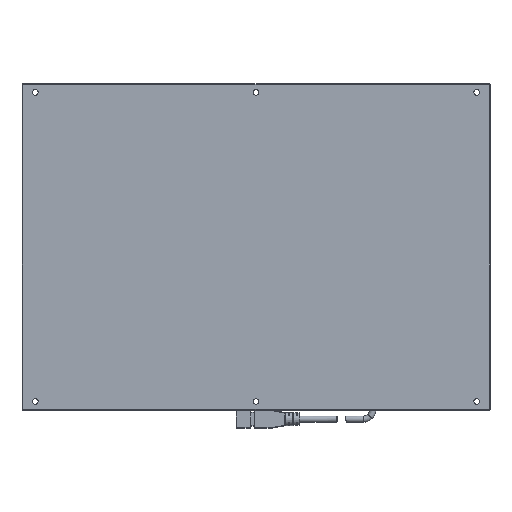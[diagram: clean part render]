
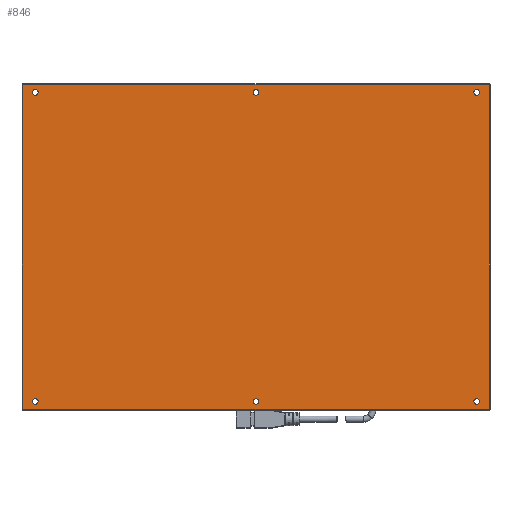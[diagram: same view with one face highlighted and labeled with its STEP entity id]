
A CAD part, front view. The second image highlights one B-rep face of the part: STEP entity #846.
In plain terms, the highlighted planar face has unit normal (0, -1, 0).
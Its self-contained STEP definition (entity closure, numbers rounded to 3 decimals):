
#1=DIRECTION('',(1.,0.,0.));
#2=VECTOR('',#1,264.);
#3=CARTESIAN_POINT('',(-132.,0.,92.));
#4=LINE('',#3,#2);
#5=DIRECTION('',(0.,0.,-1.));
#6=VECTOR('',#5,184.);
#7=CARTESIAN_POINT('',(132.,0.,92.));
#8=LINE('',#7,#6);
#9=DIRECTION('',(-1.,0.,0.));
#10=VECTOR('',#9,264.);
#11=CARTESIAN_POINT('',(132.,0.,-92.));
#12=LINE('',#11,#10);
#13=DIRECTION('',(0.,0.,1.));
#14=VECTOR('',#13,184.);
#15=CARTESIAN_POINT('',(-132.,0.,-92.));
#16=LINE('',#15,#14);
#17=CARTESIAN_POINT('',(-125.,0.,-87.5));
#18=DIRECTION('',(0.,-1.,0.));
#19=DIRECTION('',(1.,0.,0.));
#20=AXIS2_PLACEMENT_3D('',#17,#18,#19);
#22=CARTESIAN_POINT('',(-125.,0.,-87.5));
#23=DIRECTION('',(0.,-1.,0.));
#24=DIRECTION('',(-1.,0.,0.));
#25=AXIS2_PLACEMENT_3D('',#22,#23,#24);
#27=CARTESIAN_POINT('',(0.,0.,-87.5));
#28=DIRECTION('',(0.,-1.,0.));
#29=DIRECTION('',(1.,0.,0.));
#30=AXIS2_PLACEMENT_3D('',#27,#28,#29);
#32=CARTESIAN_POINT('',(0.,0.,-87.5));
#33=DIRECTION('',(0.,-1.,0.));
#34=DIRECTION('',(-1.,0.,0.));
#35=AXIS2_PLACEMENT_3D('',#32,#33,#34);
#37=CARTESIAN_POINT('',(125.,0.,-87.5));
#38=DIRECTION('',(0.,-1.,0.));
#39=DIRECTION('',(1.,0.,0.));
#40=AXIS2_PLACEMENT_3D('',#37,#38,#39);
#42=CARTESIAN_POINT('',(125.,0.,-87.5));
#43=DIRECTION('',(0.,-1.,0.));
#44=DIRECTION('',(-1.,0.,0.));
#45=AXIS2_PLACEMENT_3D('',#42,#43,#44);
#47=CARTESIAN_POINT('',(-125.,0.,87.5));
#48=DIRECTION('',(0.,-1.,0.));
#49=DIRECTION('',(1.,0.,0.));
#50=AXIS2_PLACEMENT_3D('',#47,#48,#49);
#52=CARTESIAN_POINT('',(-125.,0.,87.5));
#53=DIRECTION('',(0.,-1.,0.));
#54=DIRECTION('',(-1.,0.,0.));
#55=AXIS2_PLACEMENT_3D('',#52,#53,#54);
#57=CARTESIAN_POINT('',(0.,0.,87.5));
#58=DIRECTION('',(0.,-1.,0.));
#59=DIRECTION('',(1.,0.,0.));
#60=AXIS2_PLACEMENT_3D('',#57,#58,#59);
#62=CARTESIAN_POINT('',(0.,0.,87.5));
#63=DIRECTION('',(0.,-1.,0.));
#64=DIRECTION('',(-1.,0.,0.));
#65=AXIS2_PLACEMENT_3D('',#62,#63,#64);
#67=CARTESIAN_POINT('',(125.,0.,87.5));
#68=DIRECTION('',(0.,-1.,0.));
#69=DIRECTION('',(1.,0.,0.));
#70=AXIS2_PLACEMENT_3D('',#67,#68,#69);
#72=CARTESIAN_POINT('',(125.,0.,87.5));
#73=DIRECTION('',(0.,-1.,0.));
#74=DIRECTION('',(-1.,0.,0.));
#75=AXIS2_PLACEMENT_3D('',#72,#73,#74);
#607=CARTESIAN_POINT('',(-132.,0.,92.));
#608=CARTESIAN_POINT('',(132.,0.,92.));
#609=VERTEX_POINT('',#607);
#610=VERTEX_POINT('',#608);
#611=CARTESIAN_POINT('',(132.,0.,-92.));
#612=VERTEX_POINT('',#611);
#613=CARTESIAN_POINT('',(-132.,0.,-92.));
#614=VERTEX_POINT('',#613);
#615=CARTESIAN_POINT('',(-123.4,0.,-87.5));
#616=CARTESIAN_POINT('',(-126.6,0.,-87.5));
#617=VERTEX_POINT('',#615);
#618=VERTEX_POINT('',#616);
#619=CARTESIAN_POINT('',(1.6,0.,-87.5));
#620=CARTESIAN_POINT('',(-1.6,0.,-87.5));
#621=VERTEX_POINT('',#619);
#622=VERTEX_POINT('',#620);
#623=CARTESIAN_POINT('',(126.6,0.,-87.5));
#624=CARTESIAN_POINT('',(123.4,0.,-87.5));
#625=VERTEX_POINT('',#623);
#626=VERTEX_POINT('',#624);
#627=CARTESIAN_POINT('',(-123.4,0.,87.5));
#628=CARTESIAN_POINT('',(-126.6,0.,87.5));
#629=VERTEX_POINT('',#627);
#630=VERTEX_POINT('',#628);
#631=CARTESIAN_POINT('',(1.6,0.,87.5));
#632=CARTESIAN_POINT('',(-1.6,0.,87.5));
#633=VERTEX_POINT('',#631);
#634=VERTEX_POINT('',#632);
#635=CARTESIAN_POINT('',(126.6,0.,87.5));
#636=CARTESIAN_POINT('',(123.4,0.,87.5));
#637=VERTEX_POINT('',#635);
#638=VERTEX_POINT('',#636);
#795=CARTESIAN_POINT('',(0.,0.,0.));
#796=DIRECTION('',(0.,-1.,0.));
#797=DIRECTION('',(-1.,0.,0.));
#798=AXIS2_PLACEMENT_3D('',#795,#796,#797);
#799=PLANE('',#798);
#801=ORIENTED_EDGE('',*,*,#800,.T.);
#803=ORIENTED_EDGE('',*,*,#802,.T.);
#805=ORIENTED_EDGE('',*,*,#804,.T.);
#807=ORIENTED_EDGE('',*,*,#806,.T.);
#808=EDGE_LOOP('',(#801,#803,#805,#807));
#809=FACE_OUTER_BOUND('',#808,.F.);
#811=ORIENTED_EDGE('',*,*,#810,.T.);
#813=ORIENTED_EDGE('',*,*,#812,.T.);
#814=EDGE_LOOP('',(#811,#813));
#815=FACE_BOUND('',#814,.F.);
#817=ORIENTED_EDGE('',*,*,#816,.T.);
#819=ORIENTED_EDGE('',*,*,#818,.T.);
#820=EDGE_LOOP('',(#817,#819));
#821=FACE_BOUND('',#820,.F.);
#823=ORIENTED_EDGE('',*,*,#822,.T.);
#825=ORIENTED_EDGE('',*,*,#824,.T.);
#826=EDGE_LOOP('',(#823,#825));
#827=FACE_BOUND('',#826,.F.);
#829=ORIENTED_EDGE('',*,*,#828,.T.);
#831=ORIENTED_EDGE('',*,*,#830,.T.);
#832=EDGE_LOOP('',(#829,#831));
#833=FACE_BOUND('',#832,.F.);
#835=ORIENTED_EDGE('',*,*,#834,.T.);
#837=ORIENTED_EDGE('',*,*,#836,.T.);
#838=EDGE_LOOP('',(#835,#837));
#839=FACE_BOUND('',#838,.F.);
#841=ORIENTED_EDGE('',*,*,#840,.T.);
#843=ORIENTED_EDGE('',*,*,#842,.T.);
#844=EDGE_LOOP('',(#841,#843));
#845=FACE_BOUND('',#844,.F.);
#21=CIRCLE('',#20,1.6);
#26=CIRCLE('',#25,1.6);
#31=CIRCLE('',#30,1.6);
#36=CIRCLE('',#35,1.6);
#41=CIRCLE('',#40,1.6);
#46=CIRCLE('',#45,1.6);
#51=CIRCLE('',#50,1.6);
#56=CIRCLE('',#55,1.6);
#61=CIRCLE('',#60,1.6);
#66=CIRCLE('',#65,1.6);
#71=CIRCLE('',#70,1.6);
#76=CIRCLE('',#75,1.6);
#800=EDGE_CURVE('',#609,#610,#4,.T.);
#802=EDGE_CURVE('',#610,#612,#8,.T.);
#804=EDGE_CURVE('',#612,#614,#12,.T.);
#806=EDGE_CURVE('',#614,#609,#16,.T.);
#810=EDGE_CURVE('',#617,#618,#21,.T.);
#812=EDGE_CURVE('',#618,#617,#26,.T.);
#816=EDGE_CURVE('',#621,#622,#31,.T.);
#818=EDGE_CURVE('',#622,#621,#36,.T.);
#822=EDGE_CURVE('',#625,#626,#41,.T.);
#824=EDGE_CURVE('',#626,#625,#46,.T.);
#828=EDGE_CURVE('',#629,#630,#51,.T.);
#830=EDGE_CURVE('',#630,#629,#56,.T.);
#834=EDGE_CURVE('',#633,#634,#61,.T.);
#836=EDGE_CURVE('',#634,#633,#66,.T.);
#840=EDGE_CURVE('',#637,#638,#71,.T.);
#842=EDGE_CURVE('',#638,#637,#76,.T.);
#846=ADVANCED_FACE('',(#809,#815,#821,#827,#833,#839,#845),#799,.T.);
